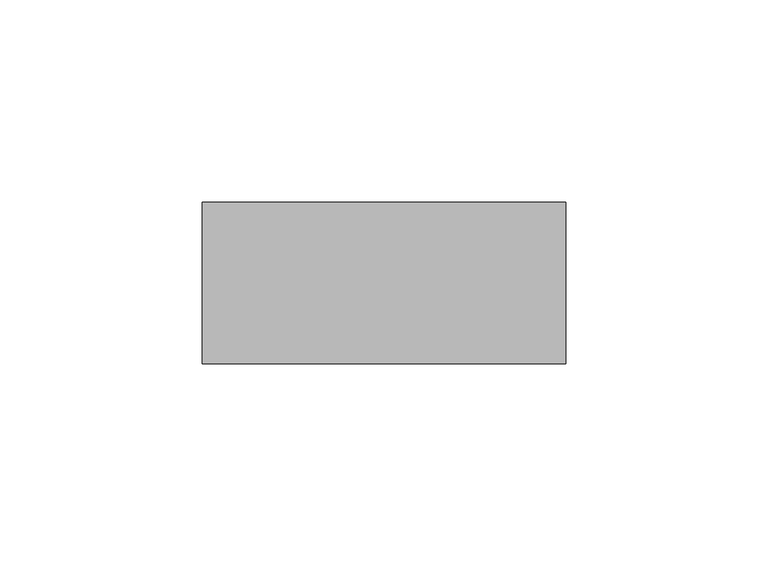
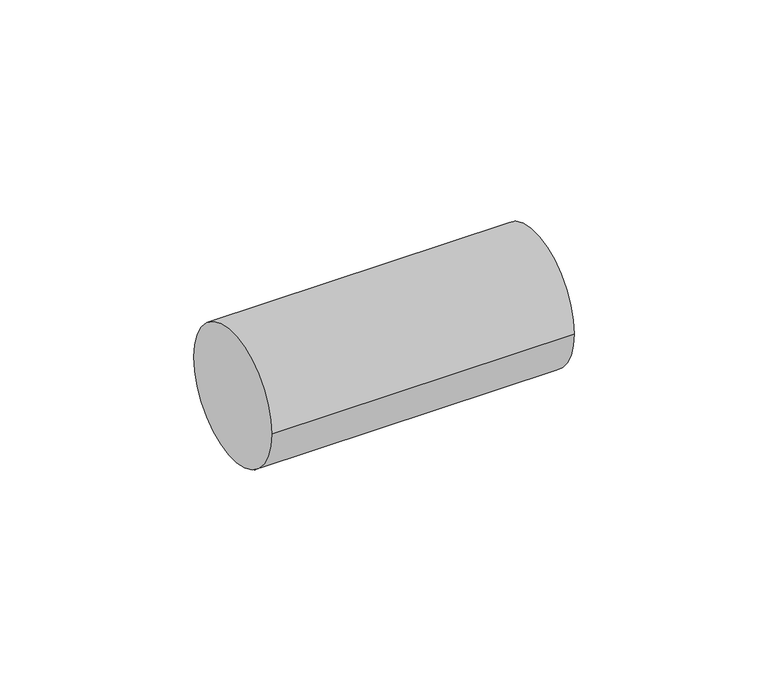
"""IFC4 building model written with IfcOpenShell, lengths in millimetres: valve geometry, EVRA_Термоголовка EVRA MТB140 : EVRA MТB140."""

from ifc_helpers import new_model, si_unit, point, frame, origin, origin_2d, place, context, project, spatial, circle_curve, trimmed, segment, composite_curve, outline, extrude, source, transform, mapped, element, save


def valve_f5090433(model_context):
    return source(origin(), model_context, "Body", "SweptSolid", [
        extrude(outline(composite_curve([segment(trimmed(circle_curve(origin_2d(), 20.0), [point((-20.0, 0.0))], [point((20.0, 0.0))], False, "CARTESIAN"), True, "CONTINUOUS"), segment(trimmed(circle_curve(origin_2d(), 20.0), [point((20.0, 0.0))], [point((-20.0, 0.0))], False, "CARTESIAN"), True, "CONTINUOUS")], self_intersect=False)), frame((-690.0, 0.0, 0.0), z_axis=(1.0, 0.0, 0.0), x_axis=(0.0, 1.0, 0.0)), (0.0, 0.0, 1.0), 90.0),
    ])


if __name__ == "__main__":
    model = new_model("IFC4")
    model_context = context("Model", 3, world=origin())
    ifc_project = project(units=[si_unit("LENGTHUNIT", "METRE", prefix="MILLI")], contexts=[model_context])
    site = spatial("IfcSite", under=ifc_project)
    building = spatial("IfcBuilding", under=site)
    placement = place(None, origin())
    valve_shape = valve_f5090433(model_context)
    element("IfcValve", 1, ObjectType="EVRA_Термоголовка EVRA MТB140 : EVRA MТB140", at=placement, inside=building, context=model_context, shape_type="MappedRepresentation", body=[
        mapped(valve_shape, transform((0.0, 0.0, 0.0), x_axis=(1.0, 0.0, 0.0), y_axis=(0.0, 1.0, 0.0), z_axis=(0.0, 0.0, 1.0))),
    ])
    save(model, "model.ifc")
